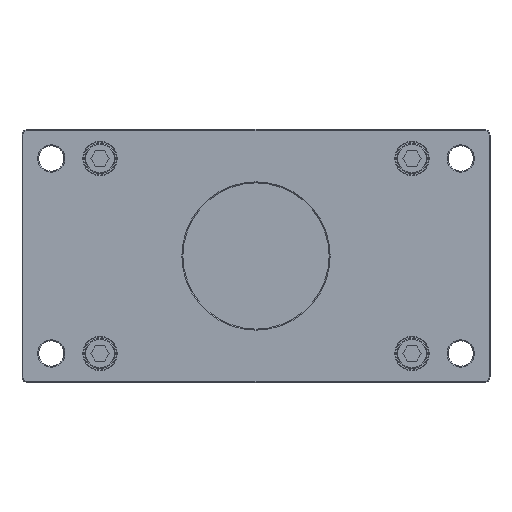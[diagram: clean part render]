
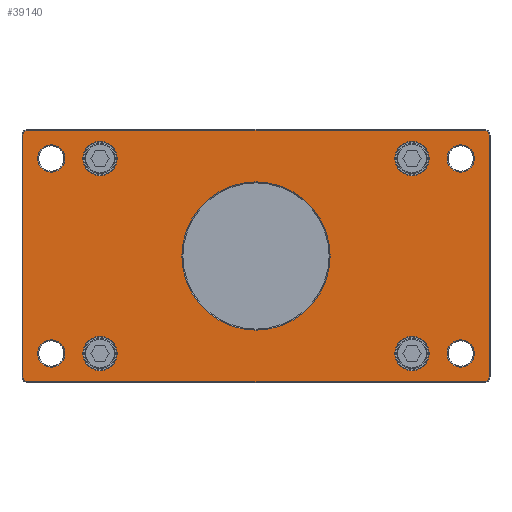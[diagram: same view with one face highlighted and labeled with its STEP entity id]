
A CAD part, front view. The second image highlights one B-rep face of the part: STEP entity #39140.
In plain terms, the highlighted planar face has unit normal (0, -1, 0) as drawn and (0, 1, 0) by its records, which use the part's own axes.
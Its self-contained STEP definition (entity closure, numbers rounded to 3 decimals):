
#37592=CARTESIAN_POINT('',(0.,9.,0.));
#37593=DIRECTION('',(0.,-1.,0.));
#37594=DIRECTION('',(1.,0.,0.));
#37595=AXIS2_PLACEMENT_3D('',#37592,#37593,#37594);
#37597=CARTESIAN_POINT('',(0.,9.,0.));
#37598=DIRECTION('',(0.,-1.,0.));
#37599=DIRECTION('',(-1.,0.,0.));
#37600=AXIS2_PLACEMENT_3D('',#37597,#37598,#37599);
#37602=CARTESIAN_POINT('',(-105.,9.,-50.));
#37603=DIRECTION('',(0.,-1.,0.));
#37604=DIRECTION('',(-1.,0.,0.));
#37605=AXIS2_PLACEMENT_3D('',#37602,#37603,#37604);
#37607=CARTESIAN_POINT('',(-105.,9.,-50.));
#37608=DIRECTION('',(0.,-1.,0.));
#37609=DIRECTION('',(1.,0.,0.));
#37610=AXIS2_PLACEMENT_3D('',#37607,#37608,#37609);
#37612=CARTESIAN_POINT('',(105.,9.,-50.));
#37613=DIRECTION('',(0.,-1.,0.));
#37614=DIRECTION('',(-1.,0.,0.));
#37615=AXIS2_PLACEMENT_3D('',#37612,#37613,#37614);
#37617=CARTESIAN_POINT('',(105.,9.,-50.));
#37618=DIRECTION('',(0.,-1.,0.));
#37619=DIRECTION('',(1.,0.,0.));
#37620=AXIS2_PLACEMENT_3D('',#37617,#37618,#37619);
#37622=CARTESIAN_POINT('',(105.,9.,50.));
#37623=DIRECTION('',(0.,-1.,0.));
#37624=DIRECTION('',(1.,0.,0.));
#37625=AXIS2_PLACEMENT_3D('',#37622,#37623,#37624);
#37627=CARTESIAN_POINT('',(105.,9.,50.));
#37628=DIRECTION('',(0.,-1.,0.));
#37629=DIRECTION('',(-1.,0.,0.));
#37630=AXIS2_PLACEMENT_3D('',#37627,#37628,#37629);
#37632=CARTESIAN_POINT('',(-105.,9.,50.));
#37633=DIRECTION('',(0.,-1.,0.));
#37634=DIRECTION('',(-1.,0.,0.));
#37635=AXIS2_PLACEMENT_3D('',#37632,#37633,#37634);
#37637=CARTESIAN_POINT('',(-105.,9.,50.));
#37638=DIRECTION('',(0.,-1.,0.));
#37639=DIRECTION('',(1.,0.,0.));
#37640=AXIS2_PLACEMENT_3D('',#37637,#37638,#37639);
#37642=CARTESIAN_POINT('',(-117.,9.,-62.));
#37643=DIRECTION('',(0.,1.,0.));
#37644=DIRECTION('',(0.,0.,-1.));
#37645=AXIS2_PLACEMENT_3D('',#37642,#37643,#37644);
#37647=DIRECTION('',(-1.,0.,0.));
#37648=VECTOR('',#37647,234.);
#37649=CARTESIAN_POINT('',(117.,9.,
-64.5));
#37650=LINE('',#37649,#37648);
#37651=CARTESIAN_POINT('',(117.,9.,-62.));
#37652=DIRECTION('',(0.,1.,0.));
#37653=DIRECTION('',(1.,0.,0.));
#37654=AXIS2_PLACEMENT_3D('',#37651,#37652,#37653);
#37656=DIRECTION('',(0.,0.,-1.));
#37657=VECTOR('',#37656,124.);
#37658=CARTESIAN_POINT('',(119.5,9.,62.));
#37659=LINE('',#37658,#37657);
#37660=CARTESIAN_POINT('',(117.,9.,62.));
#37661=DIRECTION('',(0.,1.,0.));
#37662=DIRECTION('',(0.,0.,1.));
#37663=AXIS2_PLACEMENT_3D('',#37660,#37661,#37662);
#37665=DIRECTION('',(1.,0.,0.));
#37666=VECTOR('',#37665,234.);
#37667=CARTESIAN_POINT('',(-117.,9.,
64.5));
#37668=LINE('',#37667,#37666);
#37669=CARTESIAN_POINT('',(-117.,9.,62.));
#37670=DIRECTION('',(0.,1.,0.));
#37671=DIRECTION('',(-1.,0.,0.));
#37672=AXIS2_PLACEMENT_3D('',#37669,#37670,#37671);
#37674=DIRECTION('',(0.,0.,1.));
#37675=VECTOR('',#37674,124.);
#37676=CARTESIAN_POINT('',(-119.5,9.,
-62.));
#37677=LINE('',#37676,#37675);
#37678=CARTESIAN_POINT('',(80.,9.,50.));
#37679=DIRECTION('',(0.,-1.,0.));
#37680=DIRECTION('',(1.,0.,0.));
#37681=AXIS2_PLACEMENT_3D('',#37678,#37679,#37680);
#37683=CARTESIAN_POINT('',(80.,9.,50.));
#37684=DIRECTION('',(0.,-1.,0.));
#37685=DIRECTION('',(-1.,0.,0.));
#37686=AXIS2_PLACEMENT_3D('',#37683,#37684,#37685);
#37688=CARTESIAN_POINT('',(-80.,9.,50.));
#37689=DIRECTION('',(0.,-1.,0.));
#37690=DIRECTION('',(1.,0.,0.));
#37691=AXIS2_PLACEMENT_3D('',#37688,#37689,#37690);
#37693=CARTESIAN_POINT('',(-80.,9.,50.));
#37694=DIRECTION('',(0.,-1.,0.));
#37695=DIRECTION('',(-1.,0.,0.));
#37696=AXIS2_PLACEMENT_3D('',#37693,#37694,#37695);
#37698=CARTESIAN_POINT('',(80.,9.,-50.));
#37699=DIRECTION('',(0.,-1.,0.));
#37700=DIRECTION('',(1.,0.,0.));
#37701=AXIS2_PLACEMENT_3D('',#37698,#37699,#37700);
#37703=CARTESIAN_POINT('',(80.,9.,-50.));
#37704=DIRECTION('',(0.,-1.,0.));
#37705=DIRECTION('',(-1.,0.,0.));
#37706=AXIS2_PLACEMENT_3D('',#37703,#37704,#37705);
#37708=CARTESIAN_POINT('',(-80.,9.,-50.));
#37709=DIRECTION('',(0.,-1.,0.));
#37710=DIRECTION('',(1.,0.,0.));
#37711=AXIS2_PLACEMENT_3D('',#37708,#37709,#37710);
#37713=CARTESIAN_POINT('',(-80.,9.,-50.));
#37714=DIRECTION('',(0.,-1.,0.));
#37715=DIRECTION('',(-1.,0.,0.));
#37716=AXIS2_PLACEMENT_3D('',#37713,#37714,#37715);
#38624=CARTESIAN_POINT('',(38.,9.,0.));
#38625=CARTESIAN_POINT('',(-38.,9.,0.));
#38626=VERTEX_POINT('',#38624);
#38627=VERTEX_POINT('',#38625);
#38640=CARTESIAN_POINT('',(-112.,9.,-50.));
#38641=CARTESIAN_POINT('',(-98.,9.,-50.));
#38642=VERTEX_POINT('',#38640);
#38643=VERTEX_POINT('',#38641);
#38648=CARTESIAN_POINT('',(98.,9.,-50.));
#38649=CARTESIAN_POINT('',(112.,9.,-50.));
#38650=VERTEX_POINT('',#38648);
#38651=VERTEX_POINT('',#38649);
#38656=CARTESIAN_POINT('',(112.,9.,50.));
#38657=CARTESIAN_POINT('',(98.,9.,50.));
#38658=VERTEX_POINT('',#38656);
#38659=VERTEX_POINT('',#38657);
#38664=CARTESIAN_POINT('',(-112.,9.,50.));
#38665=CARTESIAN_POINT('',(-98.,9.,50.));
#38666=VERTEX_POINT('',#38664);
#38667=VERTEX_POINT('',#38665);
#38736=CARTESIAN_POINT('',(-117.,9.,-64.5));
#38737=CARTESIAN_POINT('',(-119.5,9.,-62.));
#38738=VERTEX_POINT('',#38736);
#38739=VERTEX_POINT('',#38737);
#38744=CARTESIAN_POINT('',(-119.5,9.,
62.));
#38745=VERTEX_POINT('',#38744);
#38748=CARTESIAN_POINT('',(-117.,9.,64.5));
#38749=VERTEX_POINT('',#38748);
#38752=CARTESIAN_POINT('',(117.,9.,64.5));
#38753=VERTEX_POINT('',#38752);
#38756=CARTESIAN_POINT('',(119.5,9.,62.));
#38757=VERTEX_POINT('',#38756);
#38760=CARTESIAN_POINT('',(119.5,9.,
-62.));
#38761=VERTEX_POINT('',#38760);
#38764=CARTESIAN_POINT('',(117.,9.,-64.5));
#38765=VERTEX_POINT('',#38764);
#38784=CARTESIAN_POINT('',(88.8,9.,50.));
#38785=CARTESIAN_POINT('',(71.2,9.,50.));
#38786=VERTEX_POINT('',#38784);
#38787=VERTEX_POINT('',#38785);
#38808=CARTESIAN_POINT('',(-71.2,9.,50.));
#38809=CARTESIAN_POINT('',(-88.8,9.,50.));
#38810=VERTEX_POINT('',#38808);
#38811=VERTEX_POINT('',#38809);
#38824=CARTESIAN_POINT('',(88.8,9.,-50.));
#38825=CARTESIAN_POINT('',(71.2,9.,-50.));
#38826=VERTEX_POINT('',#38824);
#38827=VERTEX_POINT('',#38825);
#38832=CARTESIAN_POINT('',(-71.2,9.,-50.));
#38833=CARTESIAN_POINT('',(-88.8,9.,-50.));
#38834=VERTEX_POINT('',#38832);
#38835=VERTEX_POINT('',#38833);
#39064=CARTESIAN_POINT('',(0.,9.,0.));
#39065=DIRECTION('',(0.,1.,0.));
#39066=DIRECTION('',(1.,0.,0.));
#39067=AXIS2_PLACEMENT_3D('',#39064,#39065,#39066);
#39068=PLANE('',#39067);
#39070=ORIENTED_EDGE('',*,*,#39069,.F.);
#39072=ORIENTED_EDGE('',*,*,#39071,.F.);
#39074=ORIENTED_EDGE('',*,*,#39073,.F.);
#39076=ORIENTED_EDGE('',*,*,#39075,.F.);
#39078=ORIENTED_EDGE('',*,*,#39077,.F.);
#39080=ORIENTED_EDGE('',*,*,#39079,.F.);
#39082=ORIENTED_EDGE('',*,*,#39081,.F.);
#39084=ORIENTED_EDGE('',*,*,#39083,.F.);
#39085=EDGE_LOOP('',(#39070,#39072,#39074,#39076,#39078,#39080,#39082,#39084));
#39086=FACE_OUTER_BOUND('',#39085,.F.);
#39088=ORIENTED_EDGE('',*,*,#39087,.F.);
#39090=ORIENTED_EDGE('',*,*,#39089,.F.);
#39091=EDGE_LOOP('',(#39088,#39090));
#39092=FACE_BOUND('',#39091,.F.);
#39094=ORIENTED_EDGE('',*,*,#39093,.F.);
#39096=ORIENTED_EDGE('',*,*,#39095,.F.);
#39097=EDGE_LOOP('',(#39094,#39096));
#39098=FACE_BOUND('',#39097,.F.);
#39100=ORIENTED_EDGE('',*,*,#39099,.F.);
#39102=ORIENTED_EDGE('',*,*,#39101,.F.);
#39103=EDGE_LOOP('',(#39100,#39102));
#39104=FACE_BOUND('',#39103,.F.);
#39106=ORIENTED_EDGE('',*,*,#39105,.F.);
#39108=ORIENTED_EDGE('',*,*,#39107,.F.);
#39109=EDGE_LOOP('',(#39106,#39108));
#39110=FACE_BOUND('',#39109,.F.);
#39112=ORIENTED_EDGE('',*,*,#39111,.F.);
#39113=ORIENTED_EDGE('',*,*,#39054,.F.);
#39114=EDGE_LOOP('',(#39112,#39113));
#39115=FACE_BOUND('',#39114,.F.);
#39117=ORIENTED_EDGE('',*,*,#39116,.F.);
#39119=ORIENTED_EDGE('',*,*,#39118,.F.);
#39120=EDGE_LOOP('',(#39117,#39119));
#39121=FACE_BOUND('',#39120,.F.);
#39123=ORIENTED_EDGE('',*,*,#39122,.F.);
#39125=ORIENTED_EDGE('',*,*,#39124,.F.);
#39126=EDGE_LOOP('',(#39123,#39125));
#39127=FACE_BOUND('',#39126,.F.);
#39129=ORIENTED_EDGE('',*,*,#39128,.F.);
#39131=ORIENTED_EDGE('',*,*,#39130,.F.);
#39132=EDGE_LOOP('',(#39129,#39131));
#39133=FACE_BOUND('',#39132,.F.);
#39135=ORIENTED_EDGE('',*,*,#39134,.F.);
#39137=ORIENTED_EDGE('',*,*,#39136,.F.);
#39138=EDGE_LOOP('',(#39135,#39137));
#39139=FACE_BOUND('',#39138,.F.);
#39140=ADVANCED_FACE('',(#39086,#39092,#39098,#39104,#39110,#39115,#39121,
#39127,#39133,#39139),#39068,.T.);
#37596=CIRCLE('',#37595,38.);
#37601=CIRCLE('',#37600,38.);
#37606=CIRCLE('',#37605,7.);
#37611=CIRCLE('',#37610,7.);
#37616=CIRCLE('',#37615,7.);
#37621=CIRCLE('',#37620,7.);
#37626=CIRCLE('',#37625,7.);
#37631=CIRCLE('',#37630,7.);
#37636=CIRCLE('',#37635,7.);
#37641=CIRCLE('',#37640,7.);
#37646=CIRCLE('',#37645,2.5);
#37655=CIRCLE('',#37654,2.5);
#37664=CIRCLE('',#37663,2.5);
#37673=CIRCLE('',#37672,2.5);
#37682=CIRCLE('',#37681,8.8);
#37687=CIRCLE('',#37686,8.8);
#37692=CIRCLE('',#37691,8.8);
#37697=CIRCLE('',#37696,8.8);
#37702=CIRCLE('',#37701,8.8);
#37707=CIRCLE('',#37706,8.8);
#37712=CIRCLE('',#37711,8.8);
#37717=CIRCLE('',#37716,8.8);
#39054=EDGE_CURVE('',#38627,#38626,#37601,.T.);
#39069=EDGE_CURVE('',#38738,#38739,#37646,.T.);
#39071=EDGE_CURVE('',#38765,#38738,#37650,.T.);
#39073=EDGE_CURVE('',#38761,#38765,#37655,.T.);
#39075=EDGE_CURVE('',#38757,#38761,#37659,.T.);
#39077=EDGE_CURVE('',#38753,#38757,#37664,.T.);
#39079=EDGE_CURVE('',#38749,#38753,#37668,.T.);
#39081=EDGE_CURVE('',#38745,#38749,#37673,.T.);
#39083=EDGE_CURVE('',#38739,#38745,#37677,.T.);
#39087=EDGE_CURVE('',#38642,#38643,#37606,.T.);
#39089=EDGE_CURVE('',#38643,#38642,#37611,.T.);
#39093=EDGE_CURVE('',#38650,#38651,#37616,.T.);
#39095=EDGE_CURVE('',#38651,#38650,#37621,.T.);
#39099=EDGE_CURVE('',#38658,#38659,#37626,.T.);
#39101=EDGE_CURVE('',#38659,#38658,#37631,.T.);
#39105=EDGE_CURVE('',#38666,#38667,#37636,.T.);
#39107=EDGE_CURVE('',#38667,#38666,#37641,.T.);
#39111=EDGE_CURVE('',#38626,#38627,#37596,.T.);
#39116=EDGE_CURVE('',#38786,#38787,#37682,.T.);
#39118=EDGE_CURVE('',#38787,#38786,#37687,.T.);
#39122=EDGE_CURVE('',#38810,#38811,#37692,.T.);
#39124=EDGE_CURVE('',#38811,#38810,#37697,.T.);
#39128=EDGE_CURVE('',#38826,#38827,#37702,.T.);
#39130=EDGE_CURVE('',#38827,#38826,#37707,.T.);
#39134=EDGE_CURVE('',#38834,#38835,#37712,.T.);
#39136=EDGE_CURVE('',#38835,#38834,#37717,.T.);
